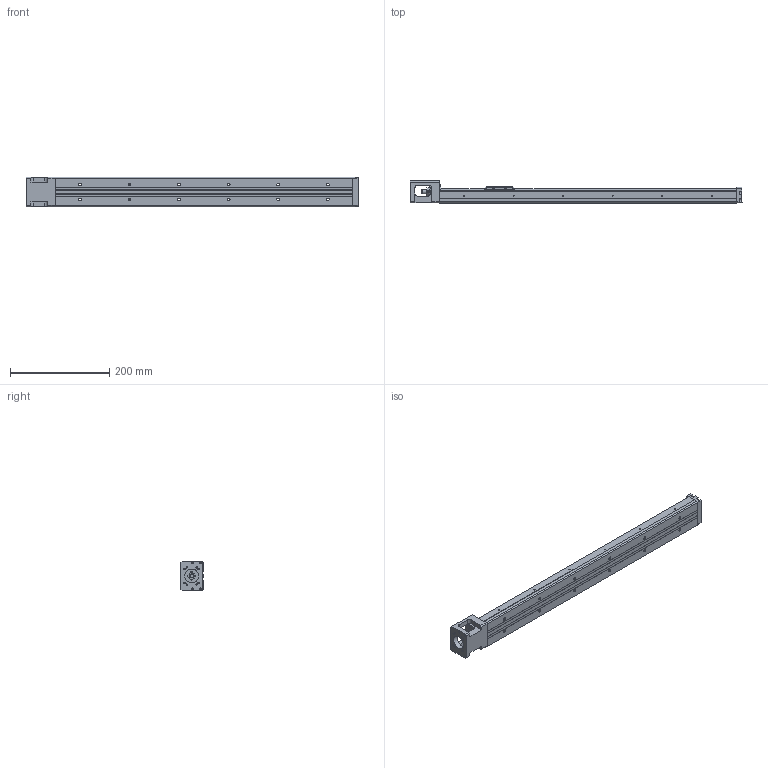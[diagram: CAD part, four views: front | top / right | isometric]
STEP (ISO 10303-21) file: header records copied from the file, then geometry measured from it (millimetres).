
FILE_DESCRIPTION(/* description */ (''),/* implementation_level */ '2;1');
FILE_NAME(/* name */ 'KP33S-600C02-D.stp',/* time_stamp */ '2020-07-01T15:44:25+08:00',/* author */ (''),/* organization */ (''),/* preprocessor_version */ 'ST-DEVELOPER v14',/* originating_system */ 'SIEMENS PLM Software NX 8.0',/* authorisation */ '');
FILE_SCHEMA (('AUTOMOTIVE_DESIGN { 1 0 10303 214 3 1 1 1 }'));
Length unit declared in the file: millimetre
Products named in the file (1): model1
Bounding box: 670 x 44.45 x 60 mm (x, y, z)
Volume: 677078.2 mm3; surface area: 191480.2 mm2
Topology: 5 solids, 14 shells, 655 faces, 1669 edges, 1099 vertices
Faces by surface type: plane 379, cylinder 195, bspline 31, extrusion 21, cone 20, torus 7, sphere 2
Full cylindrical faces by diameter (mm): 1.6 x4, 1.65 x4, 2.15 x6, 2.42 x4, 2.45 x2, 2.5 x16, 3.2 x4, 3.3 x4, 3.4 x4, 3.5 x10, 3.969 x1, 4 x4, 4.001 x1, 4.135 x2, 5.5 x12, 6 x4, 7.6 x1, 8 x5, 9.5 x12, 10.72 x3, 11.8 x2, 12 x6, 12.8 x1, 13 x2, 14 x1, 16 x4, 21.5 x1, 28 x1
Entity records: 34869 total; most frequent: CARTESIAN_POINT 15392, DIRECTION 2996, ORIENTED_EDGE 2892, EDGE_CURVE 1446, AXIS2_PLACEMENT_3D 1074, VERTEX_POINT 1026, EDGE_LOOP 932, VECTOR 848
